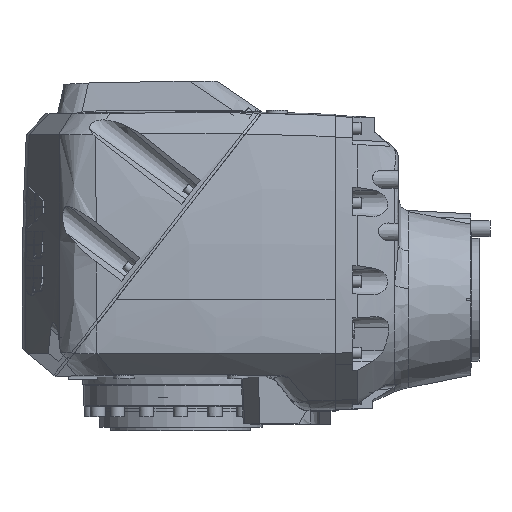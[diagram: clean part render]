
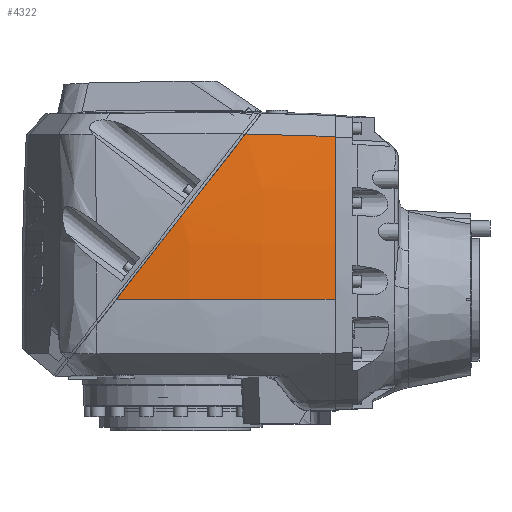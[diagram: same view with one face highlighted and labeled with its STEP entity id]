
A CAD part, top view. The second image highlights one B-rep face of the part: STEP entity #4322.
In plain terms, the highlighted toroidal (fillet/blend) face has major radius 300 mm and minor radius 1500 mm.
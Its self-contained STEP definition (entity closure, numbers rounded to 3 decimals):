
#1258 = EDGE_CURVE ( 'NONE', #4191, #48567, #20282, .T. ) ;
#2404 = DIRECTION ( 'NONE',  ( 0., 1., 0. ) ) ;
#2464 = CARTESIAN_POINT ( 'NONE',  ( 175., 0., 227. ) ) ;
#3575 = CARTESIAN_POINT ( 'NONE',  ( 101.397, 0., 1725.193 ) ) ;
#4191 = VERTEX_POINT ( 'NONE', #3575 ) ;
#4218 = ORIENTED_EDGE ( 'NONE', *, *, #1258, .T. ) ;
#4322 = ADVANCED_FACE ( 'NONE', ( #22886 ), #31945, .T. ) ;
#4433 = CARTESIAN_POINT ( 'NONE',  ( 351., 0., 1716.639 ) ) ;
#5678 = CARTESIAN_POINT ( 'NONE',  ( 351., 185.804, 1702.04 ) ) ;
#8774 = DIRECTION ( 'NONE',  ( 0., 1., 0. ) ) ;
#8856 = DIRECTION ( 'NONE',  ( 1., 0., 0. ) ) ;
#8928 = CARTESIAN_POINT ( 'NONE',  ( 351., 0., 527. ) ) ;
#9084 = B_SPLINE_CURVE_WITH_KNOTS ( 'NONE', 3,
 ( #62309, #40552, #14580, #50273, #19986, #54668 ),
 .UNSPECIFIED., .F., .F.,
 ( 4, 2, 4 ),
 ( 0., 0.12, 0.24 ),
 .UNSPECIFIED. ) ;
#10538 = CARTESIAN_POINT ( 'NONE',  ( 351., 185.804, 1702.04 ) ) ;
#14580 = CARTESIAN_POINT ( 'NONE',  ( 150.765, 63.189, 1725.756 ) ) ;
#19986 = CARTESIAN_POINT ( 'NONE',  ( 224.426, 157.47, 1716.43 ) ) ;
#20282 = CIRCLE ( 'NONE', #36620, 1500. ) ;
#21557 = DIRECTION ( 'NONE',  ( 1., 0., 0. ) ) ;
#22886 = FACE_OUTER_BOUND ( 'NONE', #55947, .T. ) ;
#23734 = CARTESIAN_POINT ( 'NONE',  ( 175., 0., 527. ) ) ;
#27370 = B_SPLINE_CURVE_WITH_KNOTS ( 'NONE', 3,
 ( #5678, #63087, #62859, #62843 ),
 .UNSPECIFIED., .F., .F.,
 ( 4, 4 ),
 ( 0.013, 0.346 ),
 .UNSPECIFIED. ) ;
#30436 = AXIS2_PLACEMENT_3D ( 'NONE', #8928, #8856, #8774 ) ;
#31942 = DIRECTION ( 'NONE',  ( 0., 1., 0. ) ) ;
#31945 = TOROIDAL_SURFACE ( 'NONE', #32818, -300., 1500. ) ;
#32818 = AXIS2_PLACEMENT_3D ( 'NONE', #23734, #21557, #31942 ) ;
#33780 = VERTEX_POINT ( 'NONE', #36462 ) ;
#35271 = EDGE_CURVE ( 'NONE', #61584, #33780, #27370, .T. ) ;
#36462 = CARTESIAN_POINT ( 'NONE',  ( 248.86, 188.744, 1710.221 ) ) ;
#36620 = AXIS2_PLACEMENT_3D ( 'NONE', #2464, #2404, #46660 ) ;
#37886 = CIRCLE ( 'NONE', #30436, 1189.639 ) ;
#40552 = CARTESIAN_POINT ( 'NONE',  ( 126.117, 31.64, 1726.408 ) ) ;
#46660 = DIRECTION ( 'NONE',  ( -1., 0., 0. ) ) ;
#48567 = VERTEX_POINT ( 'NONE', #4433 ) ;
#48969 = ORIENTED_EDGE ( 'NONE', *, *, #52291, .F. ) ;
#50273 = CARTESIAN_POINT ( 'NONE',  ( 199.92, 126.104, 1720.767 ) ) ;
#52291 = EDGE_CURVE ( 'NONE', #61584, #48567, #37886, .T. ) ;
#54668 = CARTESIAN_POINT ( 'NONE',  ( 248.86, 188.744, 1710.221 ) ) ;
#55947 = EDGE_LOOP ( 'NONE', ( #56465, #4218, #48969, #60208 ) ) ;
#56465 = ORIENTED_EDGE ( 'NONE', *, *, #62941, .F. ) ;
#60208 = ORIENTED_EDGE ( 'NONE', *, *, #35271, .T. ) ;
#61584 = VERTEX_POINT ( 'NONE', #10538 ) ;
#62309 = CARTESIAN_POINT ( 'NONE',  ( 101.397, 0., 1725.193 ) ) ;
#62843 = CARTESIAN_POINT ( 'NONE',  ( 248.86, 188.744, 1710.221 ) ) ;
#62859 = CARTESIAN_POINT ( 'NONE',  ( 283.161, 188.163, 1708.601 ) ) ;
#62941 = EDGE_CURVE ( 'NONE', #4191, #33780, #9084, .T. ) ;
#63087 = CARTESIAN_POINT ( 'NONE',  ( 317.233, 187.178, 1705.861 ) ) ;
